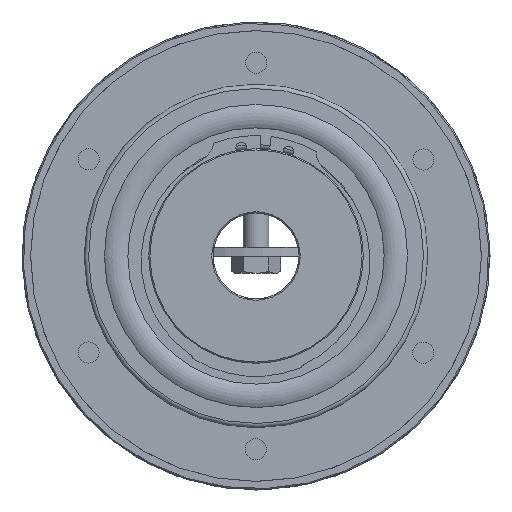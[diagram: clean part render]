
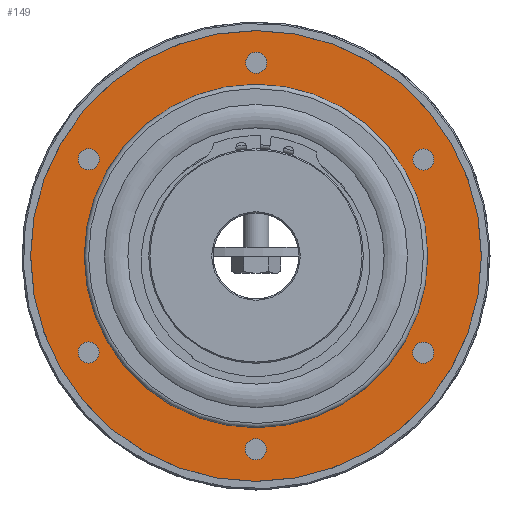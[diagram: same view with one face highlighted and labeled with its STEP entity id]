
A CAD part, left-side view. The second image highlights one B-rep face of the part: STEP entity #149.
In plain terms, the highlighted planar face has unit normal (-1, 0, 0).
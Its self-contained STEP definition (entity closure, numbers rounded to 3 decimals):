
#149 = ADVANCED_FACE( '', ( #256, #257, #258, #259, #260, #261, #262, #263 ), #264, .F. );
#256 = FACE_OUTER_BOUND( '', #398, .T. );
#257 = FACE_BOUND( '', #399, .T. );
#258 = FACE_BOUND( '', #400, .T. );
#259 = FACE_BOUND( '', #401, .T. );
#260 = FACE_BOUND( '', #402, .T. );
#261 = FACE_BOUND( '', #403, .T. );
#262 = FACE_BOUND( '', #404, .T. );
#263 = FACE_BOUND( '', #405, .T. );
#264 = PLANE( '', #406 );
#398 = EDGE_LOOP( '', ( #695 ) );
#399 = EDGE_LOOP( '', ( #696 ) );
#400 = EDGE_LOOP( '', ( #697 ) );
#401 = EDGE_LOOP( '', ( #698 ) );
#402 = EDGE_LOOP( '', ( #699 ) );
#403 = EDGE_LOOP( '', ( #700 ) );
#404 = EDGE_LOOP( '', ( #701 ) );
#405 = EDGE_LOOP( '', ( #702 ) );
#406 = AXIS2_PLACEMENT_3D( '', #703, #704, #705 );
#695 = ORIENTED_EDGE( '', *, *, #1269, .T. );
#696 = ORIENTED_EDGE( '', *, *, #1270, .T. );
#697 = ORIENTED_EDGE( '', *, *, #1259, .T. );
#698 = ORIENTED_EDGE( '', *, *, #1271, .T. );
#699 = ORIENTED_EDGE( '', *, *, #1272, .T. );
#700 = ORIENTED_EDGE( '', *, *, #1263, .T. );
#701 = ORIENTED_EDGE( '', *, *, #1273, .T. );
#702 = ORIENTED_EDGE( '', *, *, #1274, .F. );
#703 = CARTESIAN_POINT( '', ( -19.96, 52.5, 0. ) );
#704 = DIRECTION( '', ( 1., 0., 0. ) );
#705 = DIRECTION( '', ( 0., 1., 0. ) );
#1259 = EDGE_CURVE( '', #1774, #1774, #1775, .T. );
#1263 = EDGE_CURVE( '', #1780, #1780, #1781, .T. );
#1269 = EDGE_CURVE( '', #1790, #1790, #1791, .T. );
#1270 = EDGE_CURVE( '', #1792, #1792, #1793, .T. );
#1271 = EDGE_CURVE( '', #1794, #1794, #1795, .T. );
#1272 = EDGE_CURVE( '', #1796, #1796, #1797, .T. );
#1273 = EDGE_CURVE( '', #1798, #1798, #1799, .T. );
#1274 = EDGE_CURVE( '', #1800, #1800, #1801, .T. );
#1774 = VERTEX_POINT( '', #2848 );
#1775 = CIRCLE( '', #2849, 2.459 );
#1780 = VERTEX_POINT( '', #2854 );
#1781 = CIRCLE( '', #2855, 2.459 );
#1790 = VERTEX_POINT( '', #2864 );
#1791 = CIRCLE( '', #2865, 52.5 );
#1792 = VERTEX_POINT( '', #2866 );
#1793 = CIRCLE( '', #2867, 2.459 );
#1794 = VERTEX_POINT( '', #2868 );
#1795 = CIRCLE( '', #2869, 2.459 );
#1796 = VERTEX_POINT( '', #2870 );
#1797 = CIRCLE( '', #2871, 2.459 );
#1798 = VERTEX_POINT( '', #2872 );
#1799 = CIRCLE( '', #2873, 2.459 );
#1800 = VERTEX_POINT( '', #2874 );
#1801 = CIRCLE( '', #2875, 40. );
#2848 = CARTESIAN_POINT( '', ( -19.96, 41.1, -23.729 ) );
#2849 = AXIS2_PLACEMENT_3D( '', #3160, #3161, #3162 );
#2854 = CARTESIAN_POINT( '', ( -19.96, -41.1, 23.729 ) );
#2855 = AXIS2_PLACEMENT_3D( '', #3166, #3167, #3168 );
#2864 = CARTESIAN_POINT( '', ( -19.96, 0., 52.5 ) );
#2865 = AXIS2_PLACEMENT_3D( '', #3178, #3179, #3180 );
#2866 = CARTESIAN_POINT( '', ( -19.96, 41.1, 23.729 ) );
#2867 = AXIS2_PLACEMENT_3D( '', #3181, #3182, #3183 );
#2868 = CARTESIAN_POINT( '', ( -19.96, 0., -47.459 ) );
#2869 = AXIS2_PLACEMENT_3D( '', #3184, #3185, #3186 );
#2870 = CARTESIAN_POINT( '', ( -19.96, -41.1, -23.729 ) );
#2871 = AXIS2_PLACEMENT_3D( '', #3187, #3188, #3189 );
#2872 = CARTESIAN_POINT( '', ( -19.96, 0., 47.459 ) );
#2873 = AXIS2_PLACEMENT_3D( '', #3190, #3191, #3192 );
#2874 = CARTESIAN_POINT( '', ( -19.96, 0., 40. ) );
#2875 = AXIS2_PLACEMENT_3D( '', #3193, #3194, #3195 );
#3160 = CARTESIAN_POINT( '', ( -19.96, 38.971, -22.5 ) );
#3161 = DIRECTION( '', ( 1., 0., 0. ) );
#3162 = DIRECTION( '', ( 0., 0.866, -0.5 ) );
#3166 = CARTESIAN_POINT( '', ( -19.96, -38.971, 22.5 ) );
#3167 = DIRECTION( '', ( 1., 0., 0. ) );
#3168 = DIRECTION( '', ( 0., -0.866, 0.5 ) );
#3178 = CARTESIAN_POINT( '', ( -19.96, 0., 0. ) );
#3179 = DIRECTION( '', ( -1., 0., 0. ) );
#3180 = DIRECTION( '', ( 0., 0., 1. ) );
#3181 = CARTESIAN_POINT( '', ( -19.96, 38.971, 22.5 ) );
#3182 = DIRECTION( '', ( 1., 0., 0. ) );
#3183 = DIRECTION( '', ( 0., 0.866, 0.5 ) );
#3184 = CARTESIAN_POINT( '', ( -19.96, 0., -45. ) );
#3185 = DIRECTION( '', ( 1., 0., 0. ) );
#3186 = DIRECTION( '', ( 0., 0., -1. ) );
#3187 = CARTESIAN_POINT( '', ( -19.96, -38.971, -22.5 ) );
#3188 = DIRECTION( '', ( 1., 0., 0. ) );
#3189 = DIRECTION( '', ( 0., -0.866, -0.5 ) );
#3190 = CARTESIAN_POINT( '', ( -19.96, 0., 45. ) );
#3191 = DIRECTION( '', ( 1., 0., 0. ) );
#3192 = DIRECTION( '', ( 0., 0., 1. ) );
#3193 = CARTESIAN_POINT( '', ( -19.96, 0., 0. ) );
#3194 = DIRECTION( '', ( -1., 0., 0. ) );
#3195 = DIRECTION( '', ( 0., 0., 1. ) );
